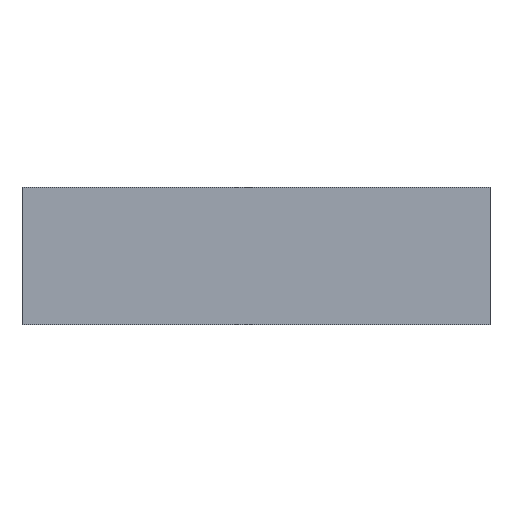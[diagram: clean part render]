
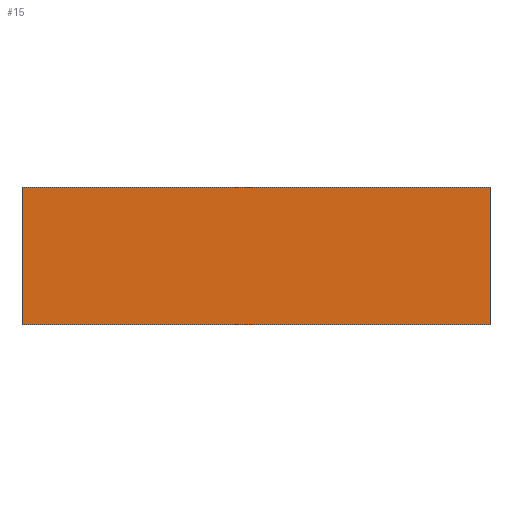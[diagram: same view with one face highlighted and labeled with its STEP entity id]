
A CAD part, front view. The second image highlights one B-rep face of the part: STEP entity #15.
In plain terms, the highlighted planar face has unit normal (0, -1, 0).
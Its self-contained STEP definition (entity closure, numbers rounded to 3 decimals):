
#15 = ADVANCED_FACE ( 'NONE', ( #459 ), #159, .F. ) ;
#43 = VERTEX_POINT ( 'NONE', #123 ) ;
#48 = VERTEX_POINT ( 'NONE', #134 ) ;
#58 = VERTEX_POINT ( 'NONE', #112 ) ;
#60 = VERTEX_POINT ( 'NONE', #114 ) ;
#112 = CARTESIAN_POINT ( 'NONE',  ( 204., 0., 120. ) ) ;
#114 = CARTESIAN_POINT ( 'NONE',  ( -204., 0., 120. ) ) ;
#123 = CARTESIAN_POINT ( 'NONE',  ( 204., 0., 0. ) ) ;
#134 = CARTESIAN_POINT ( 'NONE',  ( -204., 0., 0. ) ) ;
#154 = DIRECTION ( 'NONE',  ( 0., 1., 0. ) ) ;
#155 = DIRECTION ( 'NONE',  ( -1., 0., 0. ) ) ;
#159 = PLANE ( 'NONE',  #666 ) ;
#163 = CARTESIAN_POINT ( 'NONE',  ( -204., 0., 120. ) ) ;
#214 = DIRECTION ( 'NONE',  ( 0., 0., -1. ) ) ;
#216 = DIRECTION ( 'NONE',  ( 1., 0., 0. ) ) ;
#217 = CARTESIAN_POINT ( 'NONE',  ( 204., 0., 120. ) ) ;
#231 = CARTESIAN_POINT ( 'NONE',  ( -204., 0., 0. ) ) ;
#241 = CARTESIAN_POINT ( 'NONE',  ( -204., 0., 120. ) ) ;
#274 = DIRECTION ( 'NONE',  ( 1., 0., 0. ) ) ;
#281 = CARTESIAN_POINT ( 'NONE',  ( -204., 0., 120. ) ) ;
#282 = DIRECTION ( 'NONE',  ( 0., 0., -1. ) ) ;
#421 = EDGE_LOOP ( 'NONE', ( #473, #485, #506, #466 ) ) ;
#459 = FACE_OUTER_BOUND ( 'NONE', #421, .T. ) ;
#466 = ORIENTED_EDGE ( 'NONE', *, *, #701, .T. ) ;
#473 = ORIENTED_EDGE ( 'NONE', *, *, #671, .T. ) ;
#485 = ORIENTED_EDGE ( 'NONE', *, *, #673, .F. ) ;
#506 = ORIENTED_EDGE ( 'NONE', *, *, #686, .F. ) ;
#574 = VECTOR ( 'NONE', #282, 1000. ) ;
#575 = LINE ( 'NONE', #241, #574 ) ;
#602 = VECTOR ( 'NONE', #274, 1000. ) ;
#609 = LINE ( 'NONE', #281, #602 ) ;
#624 = VECTOR ( 'NONE', #214, 1000. ) ;
#628 = VECTOR ( 'NONE', #216, 1000. ) ;
#629 = LINE ( 'NONE', #217, #624 ) ;
#633 = LINE ( 'NONE', #231, #628 ) ;
#666 = AXIS2_PLACEMENT_3D ( 'NONE', #163, #154, #155 ) ;
#671 = EDGE_CURVE ( 'NONE', #48, #43, #633, .T. ) ;
#673 = EDGE_CURVE ( 'NONE', #58, #43, #629, .T. ) ;
#686 = EDGE_CURVE ( 'NONE', #60, #58, #609, .T. ) ;
#701 = EDGE_CURVE ( 'NONE', #60, #48, #575, .T. ) ;
